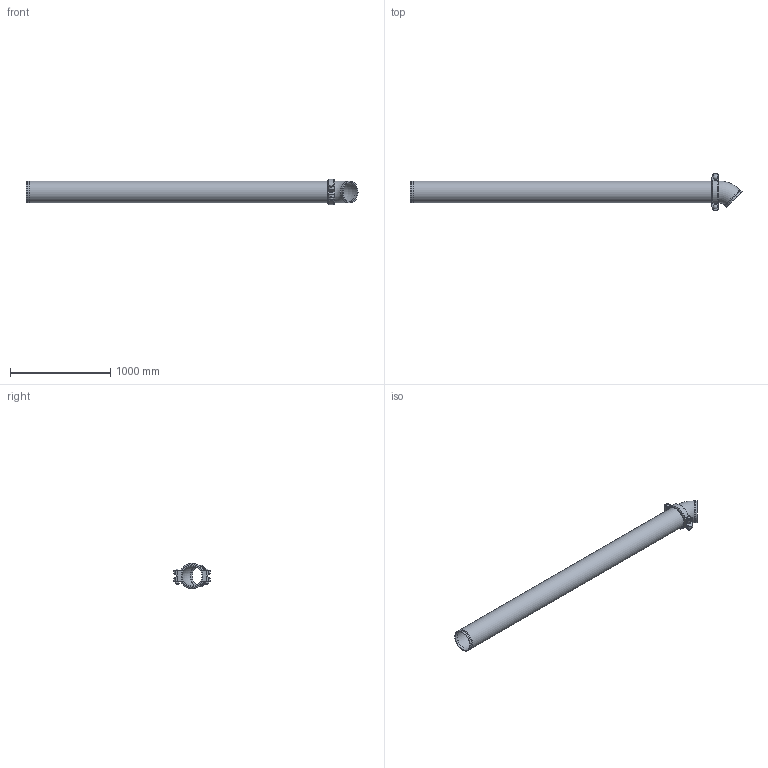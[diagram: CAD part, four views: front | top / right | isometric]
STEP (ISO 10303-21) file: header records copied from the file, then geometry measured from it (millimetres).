
FILE_DESCRIPTION(/* description */ ('VIC LONG RUN FITTING No R24 (OGS)','CAx-IF Rec.Pracs.---Representation and Presentation of Product Manufacturing Information (PMI)---4.0---2014-10-13'),/* implementation_level */ '2;1');
FILE_NAME(/* name */ 'C:\Users\Vjadhav\AppData\Roaming\Autodesk\ApplicationPlugins\Back Up\Victaulic_IPS_Long Run Fittings_No R24 (OGS)\Victaulic_IPS_Long Run Fittings_No R24 (OGS)_8 (200).stp',/* time_stamp */ '2020-10-13T19:13:59+06:00',/* author */ ('Vjadhav'),/* organization */ ('Victaulic'),/* preprocessor_version */ 'ST-DEVELOPER v17.2',/* originating_system */ 'Autodesk Inventor 2019',/* authorisation */ '');
FILE_SCHEMA (('AP242_MANAGED_MODEL_BASED_3D_ENGINEERING_MIM_LF { 1 0 10303 442 1 1 4 }'));
Length unit declared in the file: inch
Products named in the file (4): R24-08.0; 011-08.0; 177N-08.0; Pipe_R13-08.0
Assembly tree (3 placements, depth 2):
  R24-08.0
    011-08.0
    177N-08.0
    Pipe_R13-08.0
Bounding box: 3319.39 x 368.75 x 253.04 mm (x, y, z)
Volume: 19135037.1 mm3; surface area: 4554097.1 mm2
Topology: 3 solids, 3 shells, 117 faces, 317 edges, 214 vertices
Faces by surface type: plane 68, cylinder 37, torus 6, cone 4, sphere 2
Full cylindrical faces by diameter (mm): 22.225 x2, 42.85 x2, 202.717 x3, 206.375 x1, 214.401 x4, 219.075 x7
Entity records: 4128 total; most frequent: CARTESIAN_POINT 731, DIRECTION 689, ORIENTED_EDGE 642, EDGE_CURVE 321, AXIS2_PLACEMENT_3D 260, VERTEX_POINT 214, LINE 169, VECTOR 169
